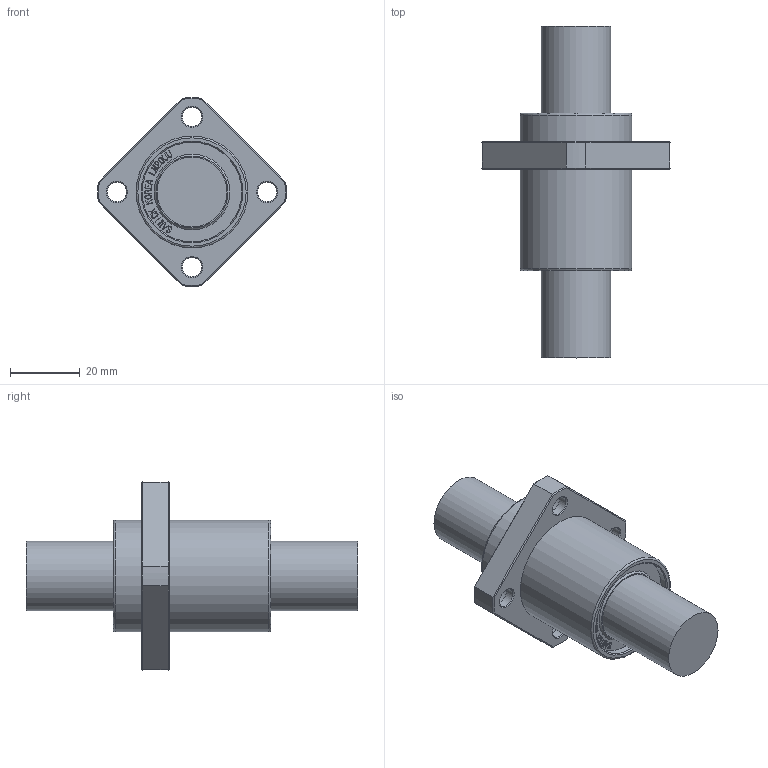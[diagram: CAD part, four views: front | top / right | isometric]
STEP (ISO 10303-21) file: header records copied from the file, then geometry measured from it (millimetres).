
FILE_DESCRIPTION(/* description */ (''),/* implementation_level */ '2;1');
FILE_NAME(/* name */ 'W:\(01) 2024년 홈페이지 CAD파일 최신화\LMEKP\IPT\LMEKP20UU.stp',/* time_stamp */ '2025-01-25T12:55:50+09:00',/* author */ ('서우현'),/* organization */ (''),/* preprocessor_version */ 'ST-DEVELOPER v17.2',/* originating_system */ 'Autodesk Inventor 2019',/* authorisation */ '');
FILE_SCHEMA (('AUTOMOTIVE_DESIGN { 1 0 10303 214 3 1 1 }'));
Length unit declared in the file: millimetre
Products named in the file (1): LM5
Bounding box: 53.97 x 95 x 53.97 mm (x, y, z)
Volume: 56103.4 mm3; surface area: 12755 mm2
Topology: 1 solids, 1 shells, 872 faces, 2442 edges, 1628 vertices
Faces by surface type: bspline 592, plane 240, cone 20, cylinder 18, torus 2
Full cylindrical faces by diameter (mm): 5.5 x4, 9.5 x4, 20 x2, 28.5 x2, 32 x2
Entity records: 29912 total; most frequent: CARTESIAN_POINT 11047, ORIENTED_EDGE 4884, EDGE_CURVE 2442, DIRECTION 1894, VERTEX_POINT 1628, B_SPLINE_CURVE_WITH_KNOTS 1184, LINE 1152, VECTOR 1152
